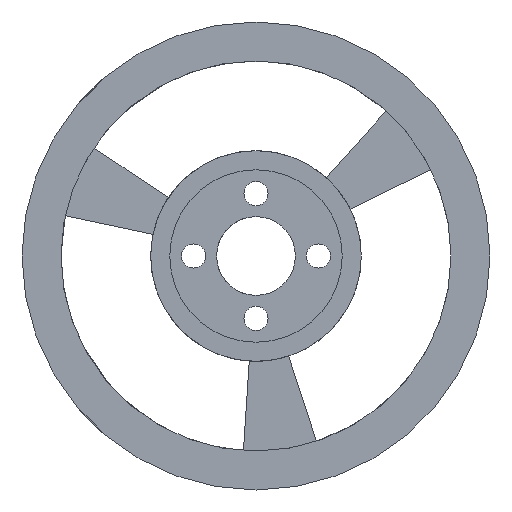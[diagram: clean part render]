
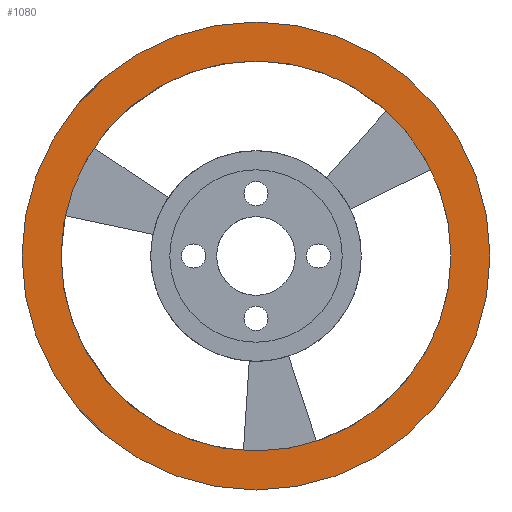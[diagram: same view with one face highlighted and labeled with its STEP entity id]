
A CAD part, left-side view. The second image highlights one B-rep face of the part: STEP entity #1080.
In plain terms, the highlighted planar face has unit normal (-1, 0, 0).
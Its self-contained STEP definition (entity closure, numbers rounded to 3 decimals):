
#49=FACE_BOUND('',#136,.T.);
#81=FACE_OUTER_BOUND('',#135,.T.);
#135=EDGE_LOOP('',(#742));
#136=EDGE_LOOP('',(#743));
#217=CIRCLE('',#1156,30.);
#218=CIRCLE('',#1157,25.);
#475=VERTEX_POINT('',#1554);
#476=VERTEX_POINT('',#1556);
#584=EDGE_CURVE('',#475,#475,#217,.T.);
#585=EDGE_CURVE('',#476,#476,#218,.T.);
#742=ORIENTED_EDGE('',*,*,#584,.F.);
#743=ORIENTED_EDGE('',*,*,#585,.T.);
#1039=PLANE('',#1155);
#1080=ADVANCED_FACE('',(#81,#49),#1039,.F.);
#1155=AXIS2_PLACEMENT_3D('',#1553,#1267,#1268);
#1156=AXIS2_PLACEMENT_3D('',#1555,#1269,#1270);
#1157=AXIS2_PLACEMENT_3D('',#1557,#1271,#1272);
#1267=DIRECTION('center_axis',(1.,0.,0.));
#1268=DIRECTION('ref_axis',(0.,1.,0.));
#1269=DIRECTION('center_axis',(1.,0.,0.));
#1270=DIRECTION('ref_axis',(0.,1.,0.));
#1271=DIRECTION('center_axis',(1.,0.,0.));
#1272=DIRECTION('ref_axis',(0.,1.,0.));
#1553=CARTESIAN_POINT('Origin',(248.992,113.561,35.329));
#1554=CARTESIAN_POINT('',(248.992,83.561,35.329));
#1555=CARTESIAN_POINT('Origin',(248.992,113.561,35.329));
#1556=CARTESIAN_POINT('',(248.992,88.561,35.329));
#1557=CARTESIAN_POINT('Origin',(248.992,113.561,35.329));
